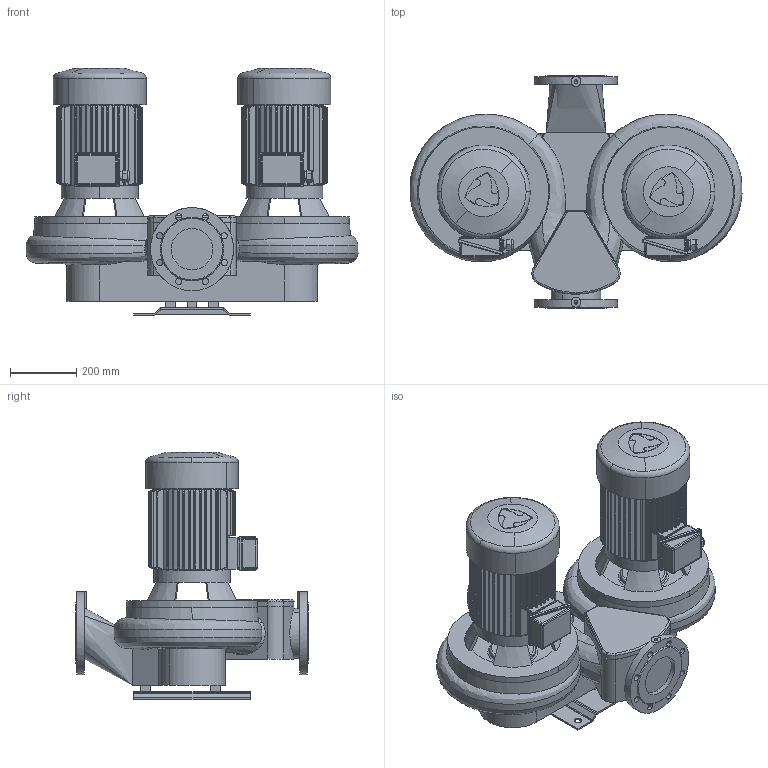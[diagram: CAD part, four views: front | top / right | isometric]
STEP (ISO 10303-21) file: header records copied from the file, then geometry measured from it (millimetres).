
FILE_DESCRIPTION(('STEP AP214'),'1');
FILE_NAME('export.stp','2018-05-28T12:42:52',(' '),(' '),'Spatial InterOp 3D',' ',' ');
FILE_SCHEMA(('AUTOMOTIVE_DESIGN { 1 0 10303 214 1 1 1 1 }'));
Length unit declared in the file: millimetre
Products named in the file (17): W_AT11294550KP133; V_TL110611291154; V_PPAT1129; P100496; P100495; P100342; V_MOKN133; RU_OKN_133; TSUOJA_OKN_132_133; KYTKOTELO_OKN_100_133; V_MKP133-G2-F31; V_EKF31OKN132133
Assembly tree (19 placements, depth 4):
  W_AT11294550KP133
    V_TL110611291154  x2
    V_PPAT1129
    P100496
      P100495  x2
      P100342
    V_MKP133-G2-F31
      V_MOKN133
        RU_OKN_133
        TSUOJA_OKN_132_133
        KYTKOTELO_OKN_100_133
      V_EKF31OKN132133
    V_MKP133-G2-F31
      V_MOKN133
        RU_OKN_133
        TSUOJA_OKN_132_133
        KYTKOTELO_OKN_100_133
      V_EKF31OKN132133
Bounding box: 999.23 x 700 x 744 mm (x, y, z)
Volume: 108925692.7 mm3; surface area: 5493675.1 mm2
Topology: 14 solids, 16 shells, 1379 faces, 3525 edges, 2193 vertices
Faces by surface type: cylinder 590, plane 503, cone 196, torus 38, bspline 28, sphere 24
Entity records: 69707 total; most frequent: CARTESIAN_POINT 15322, ORIENTED_EDGE 6648, DIRECTION 6309, STYLED_ITEM 3911, PRESENTATION_STYLE_ASSIGNMENT 3911, COLOUR_RGB 3911, EDGE_CURVE 3324, CURVE_STYLE 2587
